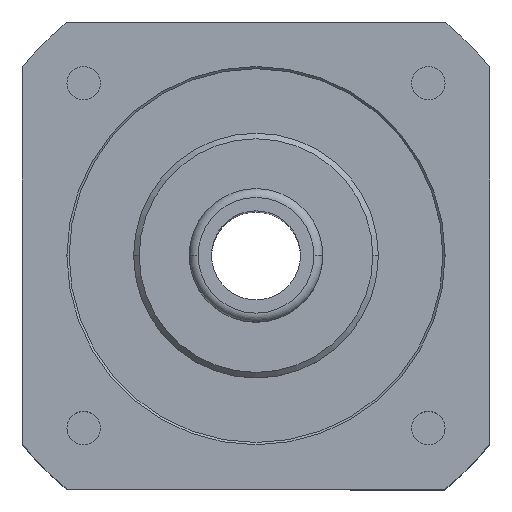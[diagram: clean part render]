
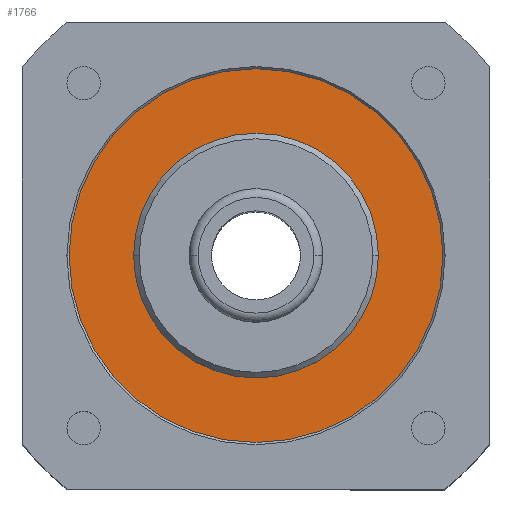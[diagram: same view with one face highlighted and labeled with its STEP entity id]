
A CAD part, top view. The second image highlights one B-rep face of the part: STEP entity #1766.
In plain terms, the highlighted planar face has unit normal (0, 0, 1).
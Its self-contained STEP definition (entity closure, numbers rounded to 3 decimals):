
#64 = EDGE_LOOP ( 'NONE', ( #120, #936 ) ) ;
#120 = ORIENTED_EDGE ( 'NONE', *, *, #961, .T. ) ;
#133 = VERTEX_POINT ( 'NONE', #1732 ) ;
#141 = FACE_BOUND ( 'NONE', #555, .T. ) ;
#166 = CARTESIAN_POINT ( 'NONE',  ( 0., 0., -2.2 ) ) ;
#205 = DIRECTION ( 'NONE',  ( 1., 0., 0. ) ) ;
#229 = AXIS2_PLACEMENT_3D ( 'NONE', #569, #389, #205 ) ;
#375 = CIRCLE ( 'NONE', #796, 11. ) ;
#389 = DIRECTION ( 'NONE',  ( 0., 0., 1. ) ) ;
#453 = EDGE_CURVE ( 'NONE', #1787, #1707, #628, .T. ) ;
#537 = AXIS2_PLACEMENT_3D ( 'NONE', #1516, #1336, #1147 ) ;
#555 = EDGE_LOOP ( 'NONE', ( #933, #1191 ) ) ;
#569 = CARTESIAN_POINT ( 'NONE',  ( 0., 0., -2.2 ) ) ;
#628 = CIRCLE ( 'NONE', #1206, 16.8 ) ;
#687 = EDGE_CURVE ( 'NONE', #133, #1220, #375, .T. ) ;
#768 = AXIS2_PLACEMENT_3D ( 'NONE', #1560, #1383, #1188 ) ;
#796 = AXIS2_PLACEMENT_3D ( 'NONE', #166, #1774, #1590 ) ;
#850 = CARTESIAN_POINT ( 'NONE',  ( 0., 0., -2.2 ) ) ;
#899 = CARTESIAN_POINT ( 'NONE',  ( -16.8, 0., -2.2 ) ) ;
#923 = EDGE_CURVE ( 'NONE', #1220, #133, #935, .T. ) ;
#933 = ORIENTED_EDGE ( 'NONE', *, *, #687, .F. ) ;
#935 = CIRCLE ( 'NONE', #768, 11. ) ;
#936 = ORIENTED_EDGE ( 'NONE', *, *, #453, .T. ) ;
#946 = PLANE ( 'NONE',  #229 ) ;
#961 = EDGE_CURVE ( 'NONE', #1707, #1787, #1357, .T. ) ;
#1147 = DIRECTION ( 'NONE',  ( 1., 0., 0. ) ) ;
#1188 = DIRECTION ( 'NONE',  ( 1., 0., 0. ) ) ;
#1191 = ORIENTED_EDGE ( 'NONE', *, *, #923, .F. ) ;
#1206 = AXIS2_PLACEMENT_3D ( 'NONE', #850, #1720, #1546 ) ;
#1220 = VERTEX_POINT ( 'NONE', #1476 ) ;
#1336 = DIRECTION ( 'NONE',  ( 0., 0., 1. ) ) ;
#1357 = CIRCLE ( 'NONE', #537, 16.8 ) ;
#1383 = DIRECTION ( 'NONE',  ( 0., 0., 1. ) ) ;
#1410 = CARTESIAN_POINT ( 'NONE',  ( 16.8, 0., -2.2 ) ) ;
#1476 = CARTESIAN_POINT ( 'NONE',  ( -11., 0., -2.2 ) ) ;
#1516 = CARTESIAN_POINT ( 'NONE',  ( 0., 0., -2.2 ) ) ;
#1546 = DIRECTION ( 'NONE',  ( 1., 0., 0. ) ) ;
#1560 = CARTESIAN_POINT ( 'NONE',  ( 0., 0., -2.2 ) ) ;
#1567 = FACE_OUTER_BOUND ( 'NONE', #64, .T. ) ;
#1590 = DIRECTION ( 'NONE',  ( 1., 0., 0. ) ) ;
#1707 = VERTEX_POINT ( 'NONE', #1410 ) ;
#1720 = DIRECTION ( 'NONE',  ( 0., 0., 1. ) ) ;
#1732 = CARTESIAN_POINT ( 'NONE',  ( 11., 0., -2.2 ) ) ;
#1766 = ADVANCED_FACE ( 'NONE', ( #1567, #141 ), #946, .T. ) ;
#1774 = DIRECTION ( 'NONE',  ( 0., 0., 1. ) ) ;
#1787 = VERTEX_POINT ( 'NONE', #899 ) ;
